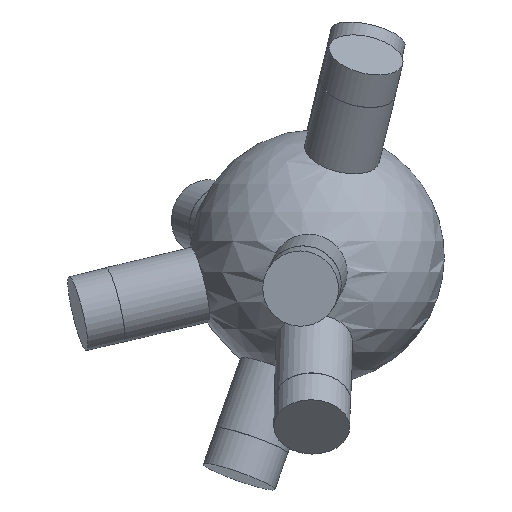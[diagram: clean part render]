
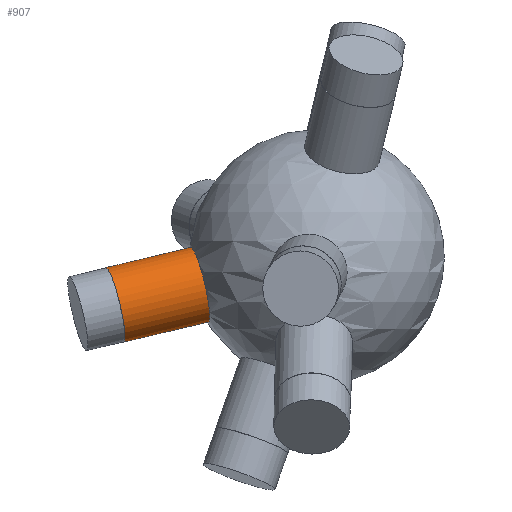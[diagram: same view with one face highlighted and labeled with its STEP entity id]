
A CAD part, front view. The second image highlights one B-rep face of the part: STEP entity #907.
In plain terms, the highlighted cylindrical face has radius 6 mm (diameter 12 mm), a full revolution.
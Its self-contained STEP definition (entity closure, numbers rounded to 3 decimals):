
#35 = SPHERICAL_SURFACE('',#36,20.);
#36 = AXIS2_PLACEMENT_3D('',#37,#38,#39);
#37 = CARTESIAN_POINT('',(0.,0.,0.));
#38 = DIRECTION('',(0.,0.,1.));
#39 = DIRECTION('',(1.,0.,-0.));
#293 = EDGE_CURVE('',#294,#294,#296,.T.);
#294 = VERTEX_POINT('',#295);
#295 = CARTESIAN_POINT('',(-16.997,-2.613,
    -10.212));
#296 = SURFACE_CURVE('',#297,(#302,#357),.PCURVE_S1.);
#297 = CIRCLE('',#298,6.);
#298 = AXIS2_PLACEMENT_3D('',#299,#300,#301);
#299 = CARTESIAN_POINT('',(-18.386,-2.613,
    -4.375));
#300 = DIRECTION('',(-0.964,-0.137,-0.229));
#301 = DIRECTION('',(0.231,0.,-0.973)
  );
#302 = PCURVE('',#35,#303);
#303 = DEFINITIONAL_REPRESENTATION('',(#304),#356);
#304 = B_SPLINE_CURVE_WITH_KNOTS('',8,(#305,#306,#307,#308,#309,#310,
    #311,#312,#313,#314,#315,#316,#317,#318,#319,#320,#321,#322,#323,
    #324,#325,#326,#327,#328,#329,#330,#331,#332,#333,#334,#335,#336,
    #337,#338,#339,#340,#341,#342,#343,#344,#345,#346,#347,#348,#349,
    #350,#351,#352,#353,#354,#355),.UNSPECIFIED.,.T.,.F.,(9,7,7,7,7,7,7,
    9),(0.,0.785,1.473,2.675,3.577,
    4.93,5.607,6.283),.UNSPECIFIED.);
#305 = CARTESIAN_POINT('',(3.294,-0.536));
#306 = CARTESIAN_POINT('',(3.328,-0.535));
#307 = CARTESIAN_POINT('',(3.362,-0.53));
#308 = CARTESIAN_POINT('',(3.396,-0.521));
#309 = CARTESIAN_POINT('',(3.427,-0.509));
#310 = CARTESIAN_POINT('',(3.456,-0.494));
#311 = CARTESIAN_POINT('',(3.483,-0.476));
#312 = CARTESIAN_POINT('',(3.506,-0.455));
#313 = CARTESIAN_POINT('',(3.544,-0.412));
#314 = CARTESIAN_POINT('',(3.559,-0.39));
#315 = CARTESIAN_POINT('',(3.572,-0.367));
#316 = CARTESIAN_POINT('',(3.582,-0.342));
#317 = CARTESIAN_POINT('',(3.589,-0.317));
#318 = CARTESIAN_POINT('',(3.594,-0.292));
#319 = CARTESIAN_POINT('',(3.596,-0.266));
#320 = CARTESIAN_POINT('',(3.596,-0.195));
#321 = CARTESIAN_POINT('',(3.588,-0.15));
#322 = CARTESIAN_POINT('',(3.572,-0.106));
#323 = CARTESIAN_POINT('',(3.55,-0.066));
#324 = CARTESIAN_POINT('',(3.522,-0.029));
#325 = CARTESIAN_POINT('',(3.489,0.002));
#326 = CARTESIAN_POINT('',(3.451,0.028));
#327 = CARTESIAN_POINT('',(3.378,0.06));
#328 = CARTESIAN_POINT('',(3.346,0.07));
#329 = CARTESIAN_POINT('',(3.312,0.076));
#330 = CARTESIAN_POINT('',(3.278,0.078));
#331 = CARTESIAN_POINT('',(3.243,0.075));
#332 = CARTESIAN_POINT('',(3.21,0.068));
#333 = CARTESIAN_POINT('',(3.177,0.057));
#334 = CARTESIAN_POINT('',(3.101,0.02));
#335 = CARTESIAN_POINT('',(3.06,-0.011));
#336 = CARTESIAN_POINT('',(3.024,-0.05));
#337 = CARTESIAN_POINT('',(2.996,-0.094));
#338 = CARTESIAN_POINT('',(2.977,-0.143));
#339 = CARTESIAN_POINT('',(2.966,-0.194));
#340 = CARTESIAN_POINT('',(2.965,-0.245));
#341 = CARTESIAN_POINT('',(2.979,-0.32));
#342 = CARTESIAN_POINT('',(2.986,-0.345));
#343 = CARTESIAN_POINT('',(2.995,-0.369));
#344 = CARTESIAN_POINT('',(3.007,-0.392));
#345 = CARTESIAN_POINT('',(3.022,-0.414));
#346 = CARTESIAN_POINT('',(3.039,-0.434));
#347 = CARTESIAN_POINT('',(3.058,-0.453));
#348 = CARTESIAN_POINT('',(3.101,-0.486));
#349 = CARTESIAN_POINT('',(3.125,-0.501));
#350 = CARTESIAN_POINT('',(3.15,-0.513));
#351 = CARTESIAN_POINT('',(3.177,-0.523));
#352 = CARTESIAN_POINT('',(3.206,-0.53));
#353 = CARTESIAN_POINT('',(3.235,-0.535));
#354 = CARTESIAN_POINT('',(3.265,-0.537));
#355 = CARTESIAN_POINT('',(3.294,-0.536));
#356 = ( GEOMETRIC_REPRESENTATION_CONTEXT(2) 
PARAMETRIC_REPRESENTATION_CONTEXT() REPRESENTATION_CONTEXT('2D SPACE',''
  ) );
#357 = PCURVE('',#358,#363);
#358 = CYLINDRICAL_SURFACE('',#359,6.);
#359 = AXIS2_PLACEMENT_3D('',#360,#361,#362);
#360 = CARTESIAN_POINT('',(0.,0.,0.));
#361 = DIRECTION('',(-0.964,-0.137,-0.229));
#362 = DIRECTION('',(0.231,0.,-0.973)
  );
#363 = DEFINITIONAL_REPRESENTATION('',(#364),#368);
#364 = LINE('',#365,#366);
#365 = CARTESIAN_POINT('',(0.,19.079));
#366 = VECTOR('',#367,1.);
#367 = DIRECTION('',(1.,0.));
#368 = ( GEOMETRIC_REPRESENTATION_CONTEXT(2) 
PARAMETRIC_REPRESENTATION_CONTEXT() REPRESENTATION_CONTEXT('2D SPACE',''
  ) );
#907 = ADVANCED_FACE('',(#908),#358,.T.);
#908 = FACE_BOUND('',#909,.T.);
#909 = EDGE_LOOP('',(#910,#933,#960,#961));
#910 = ORIENTED_EDGE('',*,*,#911,.T.);
#911 = EDGE_CURVE('',#294,#912,#914,.T.);
#912 = VERTEX_POINT('',#913);
#913 = CARTESIAN_POINT('',(-30.299,-4.504,
    -13.377));
#914 = SEAM_CURVE('',#915,(#919,#926),.PCURVE_S1.);
#915 = LINE('',#916,#917);
#916 = CARTESIAN_POINT('',(1.389,0.,
    -5.837));
#917 = VECTOR('',#918,1.);
#918 = DIRECTION('',(-0.964,-0.137,-0.229));
#919 = PCURVE('',#358,#920);
#920 = DEFINITIONAL_REPRESENTATION('',(#921),#925);
#921 = LINE('',#922,#923);
#922 = CARTESIAN_POINT('',(6.283,-0.));
#923 = VECTOR('',#924,1.);
#924 = DIRECTION('',(0.,1.));
#925 = ( GEOMETRIC_REPRESENTATION_CONTEXT(2) 
PARAMETRIC_REPRESENTATION_CONTEXT() REPRESENTATION_CONTEXT('2D SPACE',''
  ) );
#926 = PCURVE('',#358,#927);
#927 = DEFINITIONAL_REPRESENTATION('',(#928),#932);
#928 = LINE('',#929,#930);
#929 = CARTESIAN_POINT('',(0.,-0.));
#930 = VECTOR('',#931,1.);
#931 = DIRECTION('',(0.,1.));
#932 = ( GEOMETRIC_REPRESENTATION_CONTEXT(2) 
PARAMETRIC_REPRESENTATION_CONTEXT() REPRESENTATION_CONTEXT('2D SPACE',''
  ) );
#933 = ORIENTED_EDGE('',*,*,#934,.F.);
#934 = EDGE_CURVE('',#912,#912,#935,.T.);
#935 = SURFACE_CURVE('',#936,(#941,#948),.PCURVE_S1.);
#936 = CIRCLE('',#937,6.);
#937 = AXIS2_PLACEMENT_3D('',#938,#939,#940);
#938 = CARTESIAN_POINT('',(-31.688,-4.504,
    -7.54));
#939 = DIRECTION('',(-0.964,-0.137,-0.229));
#940 = DIRECTION('',(0.231,0.,-0.973)
  );
#941 = PCURVE('',#358,#942);
#942 = DEFINITIONAL_REPRESENTATION('',(#943),#947);
#943 = LINE('',#944,#945);
#944 = CARTESIAN_POINT('',(0.,32.883));
#945 = VECTOR('',#946,1.);
#946 = DIRECTION('',(1.,0.));
#947 = ( GEOMETRIC_REPRESENTATION_CONTEXT(2) 
PARAMETRIC_REPRESENTATION_CONTEXT() REPRESENTATION_CONTEXT('2D SPACE',''
  ) );
#948 = PCURVE('',#949,#954);
#949 = PLANE('',#950);
#950 = AXIS2_PLACEMENT_3D('',#951,#952,#953);
#951 = CARTESIAN_POINT('',(-31.688,-4.504,
    -7.54));
#952 = DIRECTION('',(-0.964,-0.137,-0.229));
#953 = DIRECTION('',(0.231,0.,-0.973)
  );
#954 = DEFINITIONAL_REPRESENTATION('',(#955),#959);
#955 = CIRCLE('',#956,6.);
#956 = AXIS2_PLACEMENT_2D('',#957,#958);
#957 = CARTESIAN_POINT('',(0.,0.));
#958 = DIRECTION('',(1.,0.));
#959 = ( GEOMETRIC_REPRESENTATION_CONTEXT(2) 
PARAMETRIC_REPRESENTATION_CONTEXT() REPRESENTATION_CONTEXT('2D SPACE',''
  ) );
#960 = ORIENTED_EDGE('',*,*,#911,.F.);
#961 = ORIENTED_EDGE('',*,*,#293,.T.);
